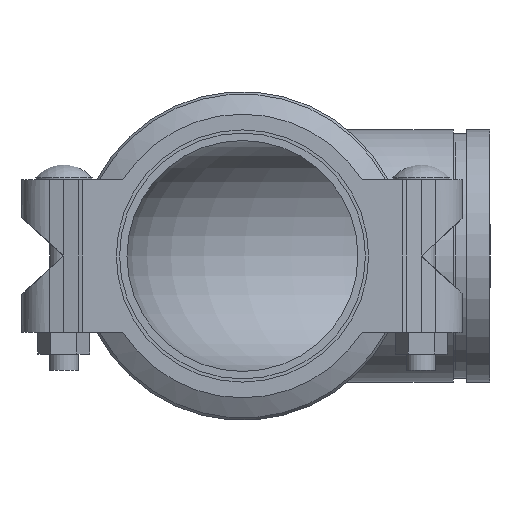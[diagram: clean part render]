
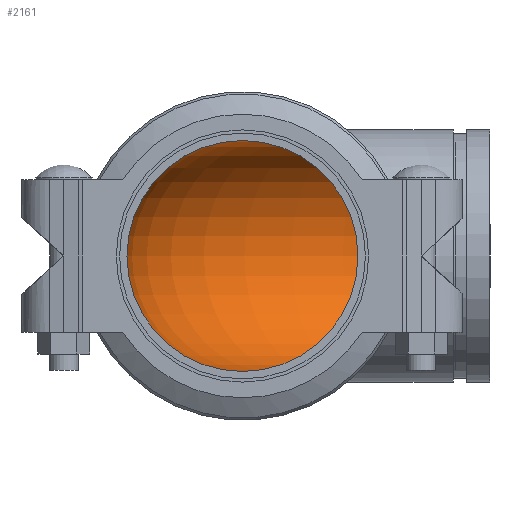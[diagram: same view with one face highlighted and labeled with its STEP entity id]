
A CAD part, left-side view. The second image highlights one B-rep face of the part: STEP entity #2161.
In plain terms, the highlighted toroidal (fillet/blend) face has major radius 142.088 mm and minor radius 77.025 mm.
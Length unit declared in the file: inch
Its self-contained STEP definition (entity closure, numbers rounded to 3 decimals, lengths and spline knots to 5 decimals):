
#62=TOROIDAL_SURFACE('',#2390,5.594,3.0325);
#476=FACE_OUTER_BOUND('',#597,.T.);
#597=EDGE_LOOP('',(#1379,#1380,#1381,#1382,#1383,#1384));
#735=CIRCLE('',#2387,3.0325);
#736=CIRCLE('',#2388,3.0325);
#738=CIRCLE('',#2391,3.0325);
#739=CIRCLE('',#2392,2.5615);
#740=CIRCLE('',#2393,3.0325);
#847=VERTEX_POINT('',#3576);
#848=VERTEX_POINT('',#3577);
#850=VERTEX_POINT('',#3584);
#851=VERTEX_POINT('',#3585);
#1055=EDGE_CURVE('',#847,#848,#735,.T.);
#1056=EDGE_CURVE('',#848,#847,#736,.T.);
#1059=EDGE_CURVE('',#850,#851,#738,.T.);
#1060=EDGE_CURVE('',#851,#848,#739,.T.);
#1061=EDGE_CURVE('',#851,#850,#740,.T.);
#1379=ORIENTED_EDGE('',*,*,#1059,.T.);
#1380=ORIENTED_EDGE('',*,*,#1060,.T.);
#1381=ORIENTED_EDGE('',*,*,#1055,.F.);
#1382=ORIENTED_EDGE('',*,*,#1056,.F.);
#1383=ORIENTED_EDGE('',*,*,#1060,.F.);
#1384=ORIENTED_EDGE('',*,*,#1061,.T.);
#2161=ADVANCED_FACE('',(#476),#62,.F.);
#2387=AXIS2_PLACEMENT_3D('',#3578,#2656,#2657);
#2388=AXIS2_PLACEMENT_3D('',#3579,#2658,#2659);
#2390=AXIS2_PLACEMENT_3D('',#3583,#2663,#2664);
#2391=AXIS2_PLACEMENT_3D('',#3586,#2665,#2666);
#2392=AXIS2_PLACEMENT_3D('',#3587,#2667,#2668);
#2393=AXIS2_PLACEMENT_3D('',#3588,#2669,#2670);
#2656=DIRECTION('center_axis',(0.,1.,0.));
#2657=DIRECTION('ref_axis',(1.,0.,0.));
#2658=DIRECTION('center_axis',(0.,1.,0.));
#2659=DIRECTION('ref_axis',(1.,0.,0.));
#2663=DIRECTION('center_axis',(0.,0.,1.));
#2664=DIRECTION('ref_axis',(1.,0.,0.));
#2665=DIRECTION('center_axis',(1.,0.,0.));
#2666=DIRECTION('ref_axis',(0.,-1.,0.));
#2667=DIRECTION('center_axis',(0.,0.,1.));
#2668=DIRECTION('ref_axis',(1.,0.,0.));
#2669=DIRECTION('center_axis',(1.,0.,0.));
#2670=DIRECTION('ref_axis',(0.,-1.,0.));
#3576=CARTESIAN_POINT('',(-3.0325,-5.594,0.));
#3577=CARTESIAN_POINT('',(3.0325,-5.594,0.));
#3578=CARTESIAN_POINT('Origin',(0.,-5.594,
0.));
#3579=CARTESIAN_POINT('Origin',(0.,-5.594,
0.));
#3583=CARTESIAN_POINT('Origin',(5.594,-5.594,0.));
#3584=CARTESIAN_POINT('',(5.594,3.0325,0.));
#3585=CARTESIAN_POINT('',(5.594,-3.0325,0.));
#3586=CARTESIAN_POINT('Origin',(5.594,0.,0.));
#3587=CARTESIAN_POINT('Origin',(5.594,-5.594,0.));
#3588=CARTESIAN_POINT('Origin',(5.594,0.,0.));
